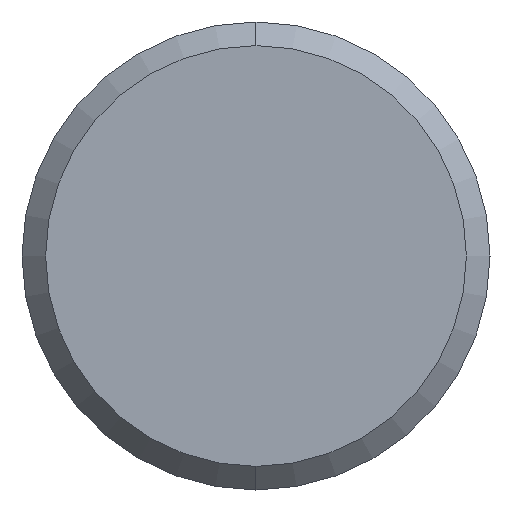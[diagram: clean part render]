
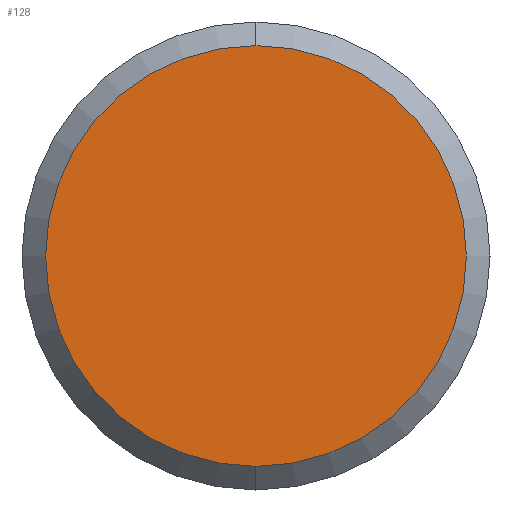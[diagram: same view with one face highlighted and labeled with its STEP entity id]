
A CAD part, left-side view. The second image highlights one B-rep face of the part: STEP entity #128.
In plain terms, the highlighted planar face has unit normal (-1, 0, 0).
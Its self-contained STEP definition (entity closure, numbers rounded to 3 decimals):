
#20 = EDGE_LOOP ( 'NONE', ( #195, #282 ) ) ;
#51 = AXIS2_PLACEMENT_3D ( 'NONE', #137, #169, #420 ) ;
#63 = DIRECTION ( 'NONE',  ( 1., 0., 0. ) ) ;
#69 = AXIS2_PLACEMENT_3D ( 'NONE', #412, #63, #275 ) ;
#86 = DIRECTION ( 'NONE',  ( 0., 0., 1. ) ) ;
#121 = CARTESIAN_POINT ( 'NONE',  ( -248.8, 0., 7.137 ) ) ;
#128 = ADVANCED_FACE ( 'NONE', ( #316 ), #447, .F. ) ;
#137 = CARTESIAN_POINT ( 'NONE',  ( -248.8, 0., 0. ) ) ;
#149 = CIRCLE ( 'NONE', #51, 7.137 ) ;
#169 = DIRECTION ( 'NONE',  ( -1., 0., 0. ) ) ;
#195 = ORIENTED_EDGE ( 'NONE', *, *, #212, .T. ) ;
#212 = EDGE_CURVE ( 'NONE', #237, #322, #259, .T. ) ;
#237 = VERTEX_POINT ( 'NONE', #354 ) ;
#241 = EDGE_CURVE ( 'NONE', #322, #237, #149, .T. ) ;
#259 = CIRCLE ( 'NONE', #378, 7.137 ) ;
#275 = DIRECTION ( 'NONE',  ( 0., 0., -1. ) ) ;
#282 = ORIENTED_EDGE ( 'NONE', *, *, #241, .T. ) ;
#292 = DIRECTION ( 'NONE',  ( -1., 0., 0. ) ) ;
#316 = FACE_OUTER_BOUND ( 'NONE', #20, .T. ) ;
#322 = VERTEX_POINT ( 'NONE', #121 ) ;
#329 = CARTESIAN_POINT ( 'NONE',  ( -248.8, 0., 0. ) ) ;
#354 = CARTESIAN_POINT ( 'NONE',  ( -248.8, 0., -7.137 ) ) ;
#378 = AXIS2_PLACEMENT_3D ( 'NONE', #329, #292, #86 ) ;
#412 = CARTESIAN_POINT ( 'NONE',  ( -248.8, 7.137, 0. ) ) ;
#420 = DIRECTION ( 'NONE',  ( 0., 0., 1. ) ) ;
#447 = PLANE ( 'NONE',  #69 ) ;
